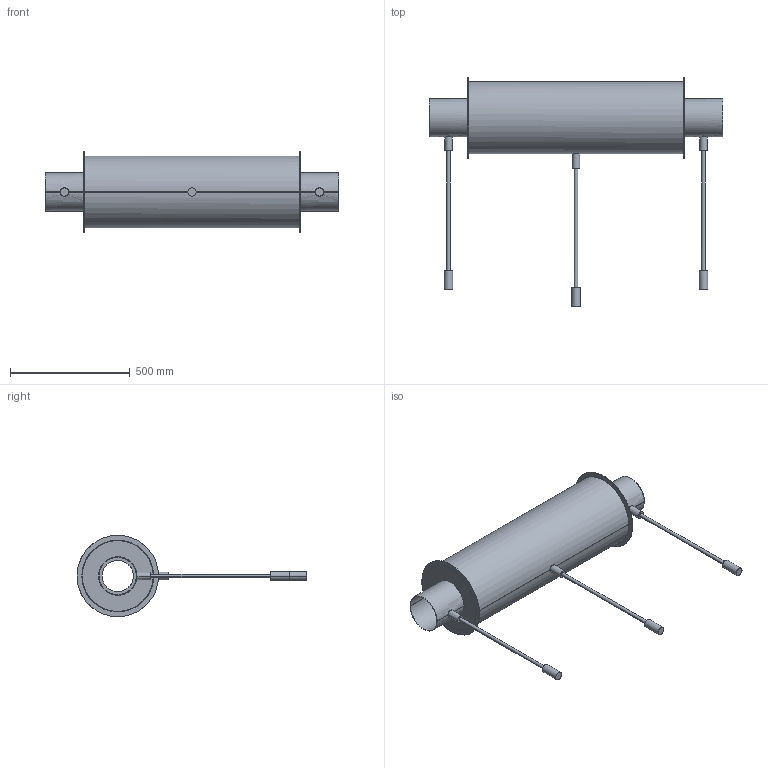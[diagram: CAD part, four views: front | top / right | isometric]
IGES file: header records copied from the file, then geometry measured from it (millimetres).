
Start section:  PTC IGES file: 52171150.igs
Global section: file name: 52171150.igs; native system: Creo Parametric by PTC Inc.; preprocessor: 2023154; author: hrl; organization: Unknown; date: 20231212.151435; units: millimetre
Bounding box: 1225 x 960 x 340 mm (x, y, z)
Surface area: 2438726.9 mm2 (no closed solid volume)
Topology: 0 solids, 0 shells, 58 faces, 232 edges, 232 vertices
Faces by surface type: revolution 38, bspline 20
